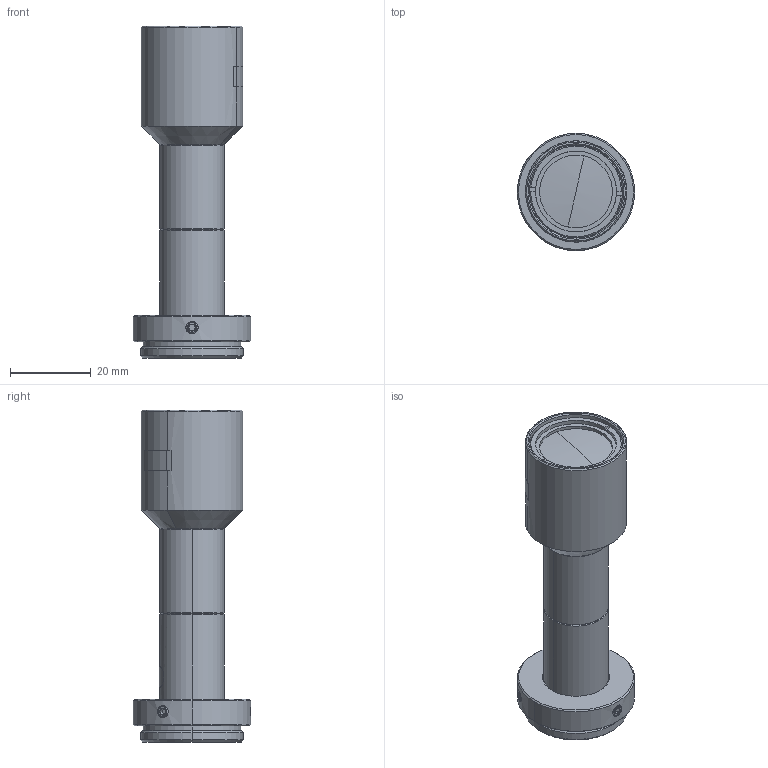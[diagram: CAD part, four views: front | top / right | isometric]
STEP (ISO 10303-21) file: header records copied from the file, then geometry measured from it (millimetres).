
FILE_DESCRIPTION (( 'STEP AP214' ), '1' );
FILE_NAME ('TEC-M1065MP_210312.STEP', '2021-03-12T01:29:29', ( '' ), ( '' ), 'SwSTEP 2.0', 'SolidWorks 2019', '' );
FILE_SCHEMA (( 'AUTOMOTIVE_DESIGN' ));
Length unit declared in the file: millimetre
Products named in the file (1): TEC-M1065MP_210312
Bounding box: 29 x 29 x 82.01 mm (x, y, z)
Volume: 15866.5 mm3; surface area: 14079.8 mm2
Topology: 10 solids, 10 shells, 279 faces, 613 edges, 378 vertices
Faces by surface type: cone 105, cylinder 89, plane 73, bspline 8, sphere 4
Entity records: 12223 total; most frequent: CARTESIAN_POINT 2758, DIRECTION 1387, ORIENTED_EDGE 1226, EDGE_CURVE 613, AXIS2_PLACEMENT_3D 559, VERTEX_POINT 378, EDGE_LOOP 319, UNCERTAINTY_MEASURE_WITH_UNIT 291
